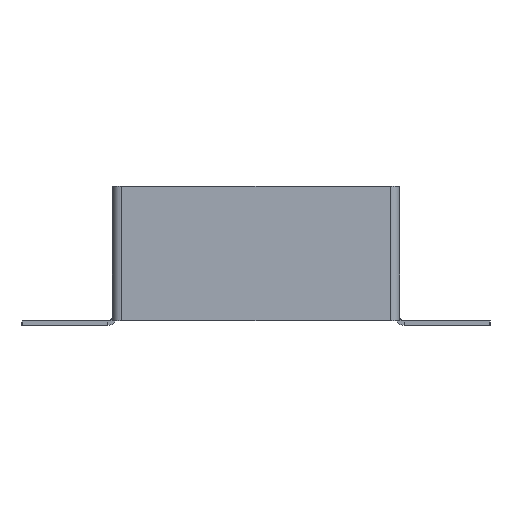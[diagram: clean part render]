
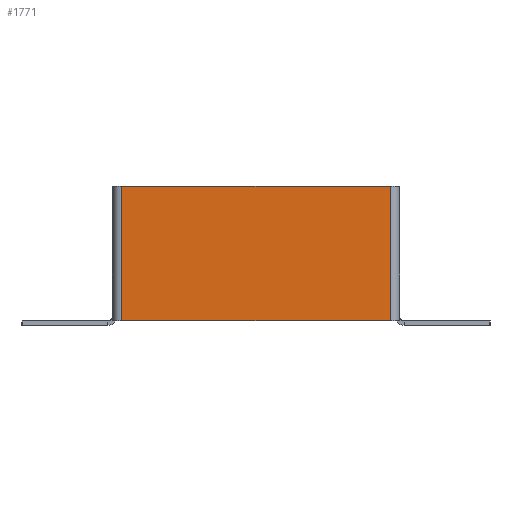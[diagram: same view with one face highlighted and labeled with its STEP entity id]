
A CAD part, front view. The second image highlights one B-rep face of the part: STEP entity #1771.
In plain terms, the highlighted planar face has unit normal (0, -1, 0).
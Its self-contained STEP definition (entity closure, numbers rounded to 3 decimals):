
#29 = ORIENTED_EDGE ( 'NONE', *, *, #1139, .F. ) ;
#124 = PLANE ( 'NONE',  #2255 ) ;
#189 = CARTESIAN_POINT ( 'NONE',  ( -58., -2., 0. ) ) ;
#634 = CARTESIAN_POINT ( 'NONE',  ( -60., -2., 0. ) ) ;
#643 = ORIENTED_EDGE ( 'NONE', *, *, #5156, .F. ) ;
#835 = EDGE_CURVE ( 'NONE', #4075, #4348, #5271, .T. ) ;
#1139 = EDGE_CURVE ( 'NONE', #4075, #4331, #4397, .T. ) ;
#1689 = ORIENTED_EDGE ( 'NONE', *, *, #835, .T. ) ;
#1711 = CARTESIAN_POINT ( 'NONE',  ( -60., -2., -58. ) ) ;
#1771 = ADVANCED_FACE ( 'NONE', ( #4190 ), #124, .F. ) ;
#1887 = CARTESIAN_POINT ( 'NONE',  ( 58., -2., -58. ) ) ;
#2002 = CARTESIAN_POINT ( 'NONE',  ( -58., -2., -58. ) ) ;
#2102 = CARTESIAN_POINT ( 'NONE',  ( -58., -2., 0. ) ) ;
#2255 = AXIS2_PLACEMENT_3D ( 'NONE', #6402, #5121, #6954 ) ;
#2470 = DIRECTION ( 'NONE',  ( -1., 0., 0. ) ) ;
#2621 = VECTOR ( 'NONE', #7349, 1000. ) ;
#3187 = DIRECTION ( 'NONE',  ( 0., 0., 1. ) ) ;
#3349 = LINE ( 'NONE', #2102, #5456 ) ;
#3623 = CARTESIAN_POINT ( 'NONE',  ( 58., -2., -58. ) ) ;
#3629 = VECTOR ( 'NONE', #3187, 1000. ) ;
#3699 = EDGE_CURVE ( 'NONE', #5371, #4331, #3349, .T. ) ;
#4075 = VERTEX_POINT ( 'NONE', #3623 ) ;
#4190 = FACE_OUTER_BOUND ( 'NONE', #6274, .T. ) ;
#4275 = LINE ( 'NONE', #634, #2621 ) ;
#4302 = VECTOR ( 'NONE', #2470, 1000. ) ;
#4331 = VERTEX_POINT ( 'NONE', #2002 ) ;
#4348 = VERTEX_POINT ( 'NONE', #6241 ) ;
#4397 = LINE ( 'NONE', #1711, #4302 ) ;
#5121 = DIRECTION ( 'NONE',  ( 0., 1., 0. ) ) ;
#5156 = EDGE_CURVE ( 'NONE', #5371, #4348, #4275, .T. ) ;
#5271 = LINE ( 'NONE', #1887, #3629 ) ;
#5371 = VERTEX_POINT ( 'NONE', #189 ) ;
#5456 = VECTOR ( 'NONE', #7685, 1000. ) ;
#6026 = ORIENTED_EDGE ( 'NONE', *, *, #3699, .T. ) ;
#6241 = CARTESIAN_POINT ( 'NONE',  ( 58., -2., 0. ) ) ;
#6274 = EDGE_LOOP ( 'NONE', ( #6026, #29, #1689, #643 ) ) ;
#6402 = CARTESIAN_POINT ( 'NONE',  ( 0., -2., 0. ) ) ;
#6954 = DIRECTION ( 'NONE',  ( 0., 0., 1. ) ) ;
#7349 = DIRECTION ( 'NONE',  ( 1., 0., 0. ) ) ;
#7685 = DIRECTION ( 'NONE',  ( 0., 0., -1. ) ) ;
